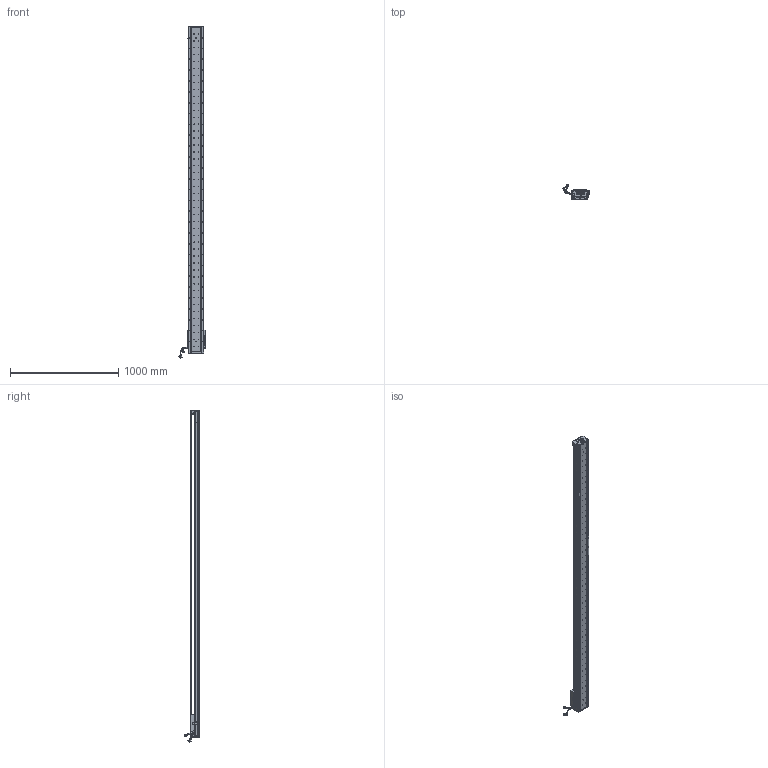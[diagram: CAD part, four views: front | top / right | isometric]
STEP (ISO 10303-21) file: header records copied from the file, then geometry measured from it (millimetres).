
FILE_DESCRIPTION (( 'STEP AP203' ), '1' );
FILE_NAME ('Z2-RY140D-1-L500-B-K.SLDASM_2750.step', '2021-05-17T07:51:02', ( '盈信电脑' ), ( '东莞市道滘镇水果街19号' ), 'SwSTEP 2.0', 'SolidWorks 2016', '' );
FILE_SCHEMA (( 'CONFIG_CONTROL_DESIGN' ));
Length unit declared in the file: millimetre
Products named in the file (36): SHIELDPLATE; Z2-RY140圉猾敕臏賑輸(21遴); Z-RY140詩湍奻揤裔; SCREW-M1.7-1; COVER-Part-1; Z-RY140詩湍狟揤裔; SCREW-M1.6-1; LABEL-Part-1; SCALE-Part-2; SCALE-Part-1; 覜茼ん672; SCREW-M1.6; HARNESS-Part-1; HOLDER0; SCALE; LABEL; Z2-RY140D-1-L500-B-K.SLDASM_2750; PBU_SHEET; Z-140詩湍傷裔啣; 140蚥薯蝶輸; HARNESS-Part-2; Z-RY140感应器672光电感应片; SEAL; SCREW-M1.6-3; 榋妏寠巭燃_暯_M2_2; SCREW-M1.7; SCREW-M1.6-2; SEAL-Part-1; Z2-RY140-L500直线电机模组底座_2750; COVER; 140雄赽晤鎢ん堤盄; HARNESS; PSLH080_PSLF2; 080黍杅芛假蚾釱21遴; 140-Z-臏賑輸盄裔(21遴); Z2-RY140-L500詩湍100mm遵_2750
Assembly tree (41 placements, depth 4):
  Z2-RY140D-1-L500-B-K.SLDASM_2750
    Z2-RY140-L500直线电机模组底座_2750
    Z-RY140感应器672光电感应片
    Z2-RY140圉猾敕臏賑輸(21遴)
    覜茼ん672  x3
    Z2-RY140-L500詩湍100mm遵_2750
    PSLH080_PSLF2
      SCALE
        SCALE-Part-1
        SCALE-Part-2
      HARNESS
        HARNESS-Part-1
        HARNESS-Part-2
      LABEL
        LABEL-Part-1
      COVER
        COVER-Part-1
      SEAL
        SEAL-Part-1
      榋妏寠巭燃_暯_M2_2
      SHIELDPLATE
      SCREW-M1.7
      SCREW-M1.7-1
      PBU_SHEET
      SCREW-M1.6
      SCREW-M1.6-1
      SCREW-M1.6-2
      SCREW-M1.6-3
      HOLDER0
    080黍杅芛假蚾釱21遴
    140-Z-臏賑輸盄裔(21遴)
    Z-140詩湍傷裔啣  x2
    Z-RY140詩湍狟揤裔  x2
    Z-RY140詩湍奻揤裔  x2
    140蚥薯蝶輸  x2
    140雄赽晤鎢ん堤盄
Bounding box: 239.79 x 143.77 x 3060.87 mm (x, y, z)
Volume: 9476828.9 mm3; surface area: 2489698.1 mm2
Topology: 36 solids, 36 shells, 4350 faces, 11891 edges, 7534 vertices
Faces by surface type: cylinder 2388, plane 1416, cone 414, torus 79, bspline 53
Entity records: 139779 total; most frequent: CARTESIAN_POINT 40335, ORIENTED_EDGE 20662, DIRECTION 18883, EDGE_CURVE 10331, AXIS2_PLACEMENT_3D 7030, VERTEX_POINT 6702, VECTOR 4823, LINE 4823
